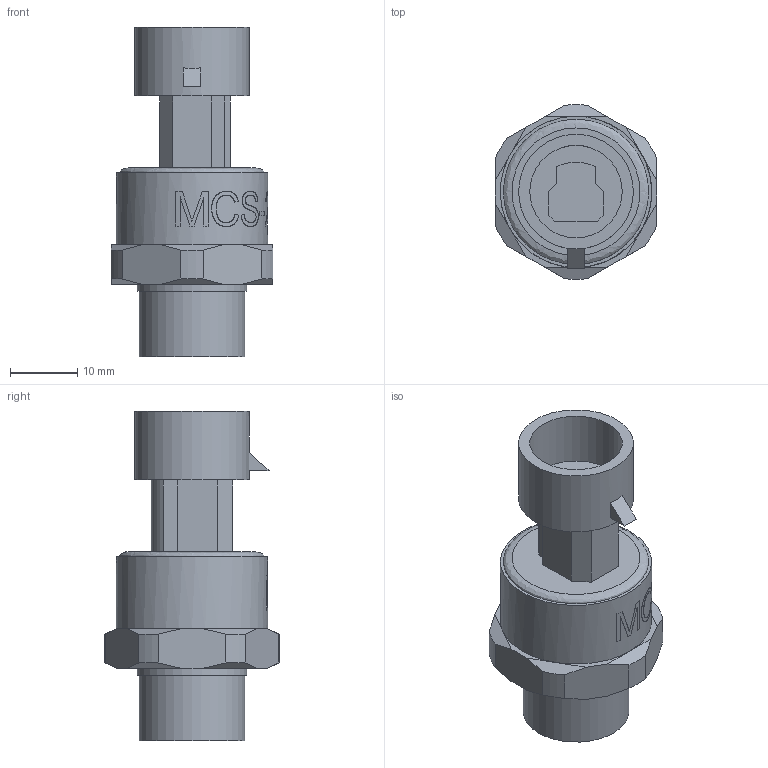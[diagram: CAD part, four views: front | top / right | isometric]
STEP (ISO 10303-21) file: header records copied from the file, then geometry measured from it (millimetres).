
FILE_DESCRIPTION(/* description */ (''),/* implementation_level */ '2;1');
FILE_NAME(/* name */ 'R:\Temp\J. Narvaez\IAN DRAWINGS\002 - Sensors\013 - MCS Pressure Transducers\MCS-200B.stp',/* time_stamp */ '2022-11-14T09:52:44-05:00',/* author */ ('mjeter'),/* organization */ ('unknown'),/* preprocessor_version */ 'ST-DEVELOPER v19',/* originating_system */ 'Autodesk Inventor 2023',/* authorisation */ '');
FILE_SCHEMA (('AUTOMOTIVE_DESIGN { 1 0 10303 214 3 1 1 }'));
Length unit declared in the file: inch
Products named in the file (1): MCS-200B
Bounding box: 24 x 25.92 x 48.83 mm (x, y, z)
Volume: 10494.7 mm3; surface area: 4744.6 mm2
Topology: 1 solids, 1 shells, 835 faces, 2427 edges, 1616 vertices
Faces by surface type: plane 797, cylinder 34, bspline 3, cone 1
Full cylindrical faces by diameter (mm): 10.795 x7, 13.716 x1, 15.646 x1, 16.307 x1, 17.018 x1, 22.437 x1
Entity records: 31404 total; most frequent: CARTESIAN_POINT 7972, DIRECTION 5429, ORIENTED_EDGE 4854, EDGE_CURVE 2427, AXIS2_PLACEMENT_3D 2191, VERTEX_POINT 1616, ELLIPSE 1160, LINE 1047
